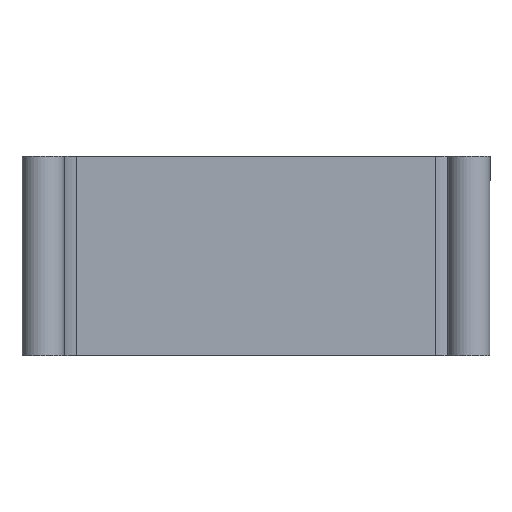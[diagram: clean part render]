
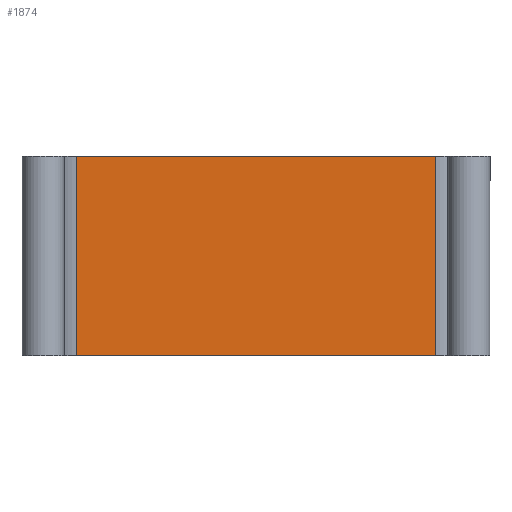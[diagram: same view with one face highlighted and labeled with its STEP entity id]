
A CAD part, front view. The second image highlights one B-rep face of the part: STEP entity #1874.
In plain terms, the highlighted planar face has unit normal (0, -1, 0).
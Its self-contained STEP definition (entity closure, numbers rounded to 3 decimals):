
#45 = PLANE('',#46);
#46 = AXIS2_PLACEMENT_3D('',#47,#48,#49);
#47 = CARTESIAN_POINT('',(-119.633,-55.233,5.));
#48 = DIRECTION('',(0.,0.,1.));
#49 = DIRECTION('',(1.,0.,0.));
#72 = CYLINDRICAL_SURFACE('',#73,7.4);
#73 = AXIS2_PLACEMENT_3D('',#74,#75,#76);
#74 = CARTESIAN_POINT('',(-112.4,-48.,5.));
#75 = DIRECTION('',(0.,0.,1.));
#76 = DIRECTION('',(-1.,0.,0.));
#100 = PLANE('',#101);
#101 = AXIS2_PLACEMENT_3D('',#102,#103,#104);
#102 = CARTESIAN_POINT('',(-119.633,-55.233,48.4));
#103 = DIRECTION('',(0.,0.,1.));
#104 = DIRECTION('',(1.,0.,0.));
#197 = VERTEX_POINT('',#198);
#198 = CARTESIAN_POINT('',(-112.4,-55.4,5.));
#220 = EDGE_CURVE('',#197,#221,#223,.T.);
#221 = VERTEX_POINT('',#222);
#222 = CARTESIAN_POINT('',(-34.4,-55.4,5.));
#223 = SURFACE_CURVE('',#224,(#228,#235),.PCURVE_S1.);
#224 = LINE('',#225,#226);
#225 = CARTESIAN_POINT('',(-119.8,-55.4,5.));
#226 = VECTOR('',#227,1.);
#227 = DIRECTION('',(1.,0.,0.));
#228 = PCURVE('',#45,#229);
#229 = DEFINITIONAL_REPRESENTATION('',(#230),#234);
#230 = LINE('',#231,#232);
#231 = CARTESIAN_POINT('',(-0.167,-0.167));
#232 = VECTOR('',#233,1.);
#233 = DIRECTION('',(1.,0.));
#234 = ( GEOMETRIC_REPRESENTATION_CONTEXT(2) 
PARAMETRIC_REPRESENTATION_CONTEXT() REPRESENTATION_CONTEXT('2D SPACE',''
  ) );
#235 = PCURVE('',#236,#241);
#236 = PLANE('',#237);
#237 = AXIS2_PLACEMENT_3D('',#238,#239,#240);
#238 = CARTESIAN_POINT('',(-119.8,-55.4,5.));
#239 = DIRECTION('',(0.,1.,0.));
#240 = DIRECTION('',(0.,0.,1.));
#241 = DEFINITIONAL_REPRESENTATION('',(#242),#246);
#242 = LINE('',#243,#244);
#243 = CARTESIAN_POINT('',(0.,0.));
#244 = VECTOR('',#245,1.);
#245 = DIRECTION('',(0.,1.));
#246 = ( GEOMETRIC_REPRESENTATION_CONTEXT(2) 
PARAMETRIC_REPRESENTATION_CONTEXT() REPRESENTATION_CONTEXT('2D SPACE',''
  ) );
#269 = CYLINDRICAL_SURFACE('',#270,7.4);
#270 = AXIS2_PLACEMENT_3D('',#271,#272,#273);
#271 = CARTESIAN_POINT('',(-34.4,-48.,5.));
#272 = DIRECTION('',(0.,0.,1.));
#273 = DIRECTION('',(1.,0.,0.));
#720 = EDGE_CURVE('',#197,#721,#723,.T.);
#721 = VERTEX_POINT('',#722);
#722 = CARTESIAN_POINT('',(-112.4,-55.4,48.4));
#723 = SURFACE_CURVE('',#724,(#728,#735),.PCURVE_S1.);
#724 = LINE('',#725,#726);
#725 = CARTESIAN_POINT('',(-112.4,-55.4,5.));
#726 = VECTOR('',#727,1.);
#727 = DIRECTION('',(0.,0.,1.));
#728 = PCURVE('',#72,#729);
#729 = DEFINITIONAL_REPRESENTATION('',(#730),#734);
#730 = LINE('',#731,#732);
#731 = CARTESIAN_POINT('',(1.571,0.));
#732 = VECTOR('',#733,1.);
#733 = DIRECTION('',(0.,1.));
#734 = ( GEOMETRIC_REPRESENTATION_CONTEXT(2) 
PARAMETRIC_REPRESENTATION_CONTEXT() REPRESENTATION_CONTEXT('2D SPACE',''
  ) );
#735 = PCURVE('',#236,#736);
#736 = DEFINITIONAL_REPRESENTATION('',(#737),#741);
#737 = LINE('',#738,#739);
#738 = CARTESIAN_POINT('',(0.,7.4));
#739 = VECTOR('',#740,1.);
#740 = DIRECTION('',(1.,0.));
#741 = ( GEOMETRIC_REPRESENTATION_CONTEXT(2) 
PARAMETRIC_REPRESENTATION_CONTEXT() REPRESENTATION_CONTEXT('2D SPACE',''
  ) );
#770 = EDGE_CURVE('',#721,#771,#773,.T.);
#771 = VERTEX_POINT('',#772);
#772 = CARTESIAN_POINT('',(-34.4,-55.4,48.4));
#773 = SURFACE_CURVE('',#774,(#778,#785),.PCURVE_S1.);
#774 = LINE('',#775,#776);
#775 = CARTESIAN_POINT('',(-119.8,-55.4,48.4));
#776 = VECTOR('',#777,1.);
#777 = DIRECTION('',(1.,0.,0.));
#778 = PCURVE('',#100,#779);
#779 = DEFINITIONAL_REPRESENTATION('',(#780),#784);
#780 = LINE('',#781,#782);
#781 = CARTESIAN_POINT('',(-0.167,-0.167));
#782 = VECTOR('',#783,1.);
#783 = DIRECTION('',(1.,0.));
#784 = ( GEOMETRIC_REPRESENTATION_CONTEXT(2) 
PARAMETRIC_REPRESENTATION_CONTEXT() REPRESENTATION_CONTEXT('2D SPACE',''
  ) );
#785 = PCURVE('',#236,#786);
#786 = DEFINITIONAL_REPRESENTATION('',(#787),#791);
#787 = LINE('',#788,#789);
#788 = CARTESIAN_POINT('',(43.4,0.));
#789 = VECTOR('',#790,1.);
#790 = DIRECTION('',(0.,1.));
#791 = ( GEOMETRIC_REPRESENTATION_CONTEXT(2) 
PARAMETRIC_REPRESENTATION_CONTEXT() REPRESENTATION_CONTEXT('2D SPACE',''
  ) );
#1874 = ADVANCED_FACE('',(#1875),#236,.F.);
#1875 = FACE_BOUND('',#1876,.F.);
#1876 = EDGE_LOOP('',(#1877,#1878,#1879,#1880));
#1877 = ORIENTED_EDGE('',*,*,#220,.F.);
#1878 = ORIENTED_EDGE('',*,*,#720,.T.);
#1879 = ORIENTED_EDGE('',*,*,#770,.T.);
#1880 = ORIENTED_EDGE('',*,*,#1881,.F.);
#1881 = EDGE_CURVE('',#221,#771,#1882,.T.);
#1882 = SURFACE_CURVE('',#1883,(#1887,#1894),.PCURVE_S1.);
#1883 = LINE('',#1884,#1885);
#1884 = CARTESIAN_POINT('',(-34.4,-55.4,5.));
#1885 = VECTOR('',#1886,1.);
#1886 = DIRECTION('',(0.,0.,1.));
#1887 = PCURVE('',#236,#1888);
#1888 = DEFINITIONAL_REPRESENTATION('',(#1889),#1893);
#1889 = LINE('',#1890,#1891);
#1890 = CARTESIAN_POINT('',(0.,85.4));
#1891 = VECTOR('',#1892,1.);
#1892 = DIRECTION('',(1.,0.));
#1893 = ( GEOMETRIC_REPRESENTATION_CONTEXT(2) 
PARAMETRIC_REPRESENTATION_CONTEXT() REPRESENTATION_CONTEXT('2D SPACE',''
  ) );
#1894 = PCURVE('',#269,#1895);
#1895 = DEFINITIONAL_REPRESENTATION('',(#1896),#1900);
#1896 = LINE('',#1897,#1898);
#1897 = CARTESIAN_POINT('',(-1.571,0.));
#1898 = VECTOR('',#1899,1.);
#1899 = DIRECTION('',(-0.,1.));
#1900 = ( GEOMETRIC_REPRESENTATION_CONTEXT(2) 
PARAMETRIC_REPRESENTATION_CONTEXT() REPRESENTATION_CONTEXT('2D SPACE',''
  ) );
